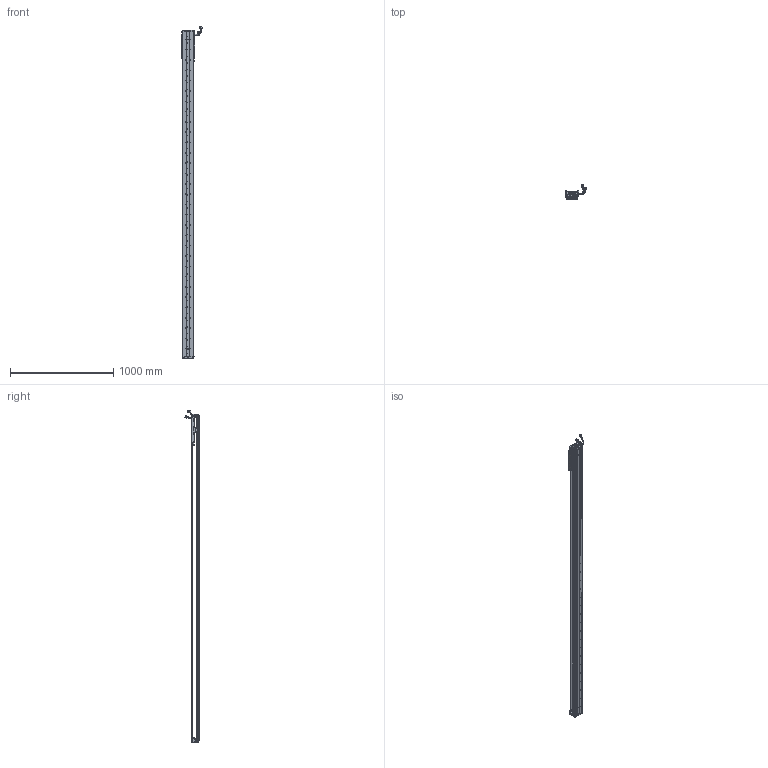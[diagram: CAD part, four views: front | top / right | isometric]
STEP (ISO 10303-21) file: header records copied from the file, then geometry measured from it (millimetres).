
FILE_DESCRIPTION (( 'STEP AP203' ), '1' );
FILE_NAME ('Z3-RY100D-1-L500-B-K.SLDASM_2850.step', '2021-05-17T02:53:04', ( '盈信电脑' ), ( '东莞市道滘镇水果街19号' ), 'SwSTEP 2.0', 'SolidWorks 2016', '' );
FILE_SCHEMA (( 'CONFIG_CONTROL_DESIGN' ));
Length unit declared in the file: millimetre
Products named in the file (36): HARNESS-Part-2; SCALE; SEAL-Part-1; COVER; SCREW-M1.6-3; SCALE-Part-2; PBU_SHEET; Z3-RY100D-500-倰第菁釱_2850; LABEL; SCREW-M1.7; Z-RY100D詩湍奻揤裔; LABEL-Part-1; Z3-RY100-L500詩湍90mm遵_2850; PSLH080_PSLF2; HARNESS-Part-1; 140蚥薯蝶輸; SHIELDPLATE; SEAL; HARNESS; Z-100詩湍傷裔啣; SCREW-M1.6; HOLDER0; 100-Z-臏賑輸盄裔(21遴); SCALE-Part-1; Z-RY100D詩湍狟揤裔; Z3-RY100铝滑块（21款）; 覜茼ん672; SCREW-M1.6-1; SCREW-M1.6-2; SCREW-M1.7-1; COVER-Part-1; 140雄赽晤鎢ん堤盄; 榋妏寠巭燃_暯_M2_2; Z3-RY100D-1-L500-B-K.SLDASM_2850; 080黍杅芛假蚾釱21遴; Z-RY100D覜茼んえ
Assembly tree (43 placements, depth 4):
  Z3-RY100D-1-L500-B-K.SLDASM_2850
    Z3-RY100D-500-倰第菁釱_2850
    Z3-RY100铝滑块（21款）
    PSLH080_PSLF2
      SCALE
        SCALE-Part-1
        SCALE-Part-2
      HARNESS
        HARNESS-Part-1
        HARNESS-Part-2
      LABEL
        LABEL-Part-1
      COVER
        COVER-Part-1
      SEAL
        SEAL-Part-1
      榋妏寠巭燃_暯_M2_2
      SHIELDPLATE
      SCREW-M1.7
      SCREW-M1.7-1
      PBU_SHEET
      SCREW-M1.6
      SCREW-M1.6-1
      SCREW-M1.6-2
      SCREW-M1.6-3
      HOLDER0
    080黍杅芛假蚾釱21遴
    Z-100詩湍傷裔啣  x2
    140蚥薯蝶輸  x2
    覜茼ん672  x3
    Z-RY100D覜茼んえ  x3
    100-Z-臏賑輸盄裔(21遴)
    140雄赽晤鎢ん堤盄
    Z3-RY100-L500詩湍90mm遵_2850
    Z-RY100D詩湍狟揤裔  x2
    Z-RY100D詩湍奻揤裔  x2
Bounding box: 205.79 x 136.11 x 3220.43 mm (x, y, z)
Volume: 5777211.7 mm3; surface area: 2284747.4 mm2
Topology: 38 solids, 38 shells, 3145 faces, 8671 edges, 5548 vertices
Faces by surface type: cylinder 1594, plane 1203, cone 226, torus 69, bspline 53
Entity records: 92545 total; most frequent: CARTESIAN_POINT 19345, DIRECTION 14993, ORIENTED_EDGE 14222, EDGE_CURVE 7111, AXIS2_PLACEMENT_3D 5668, VERTEX_POINT 4616, VECTOR 3657, LINE 3657
